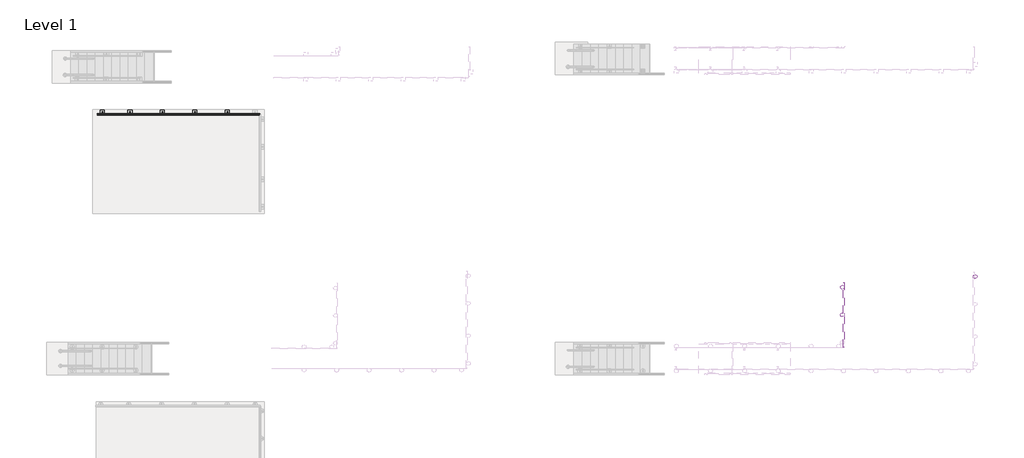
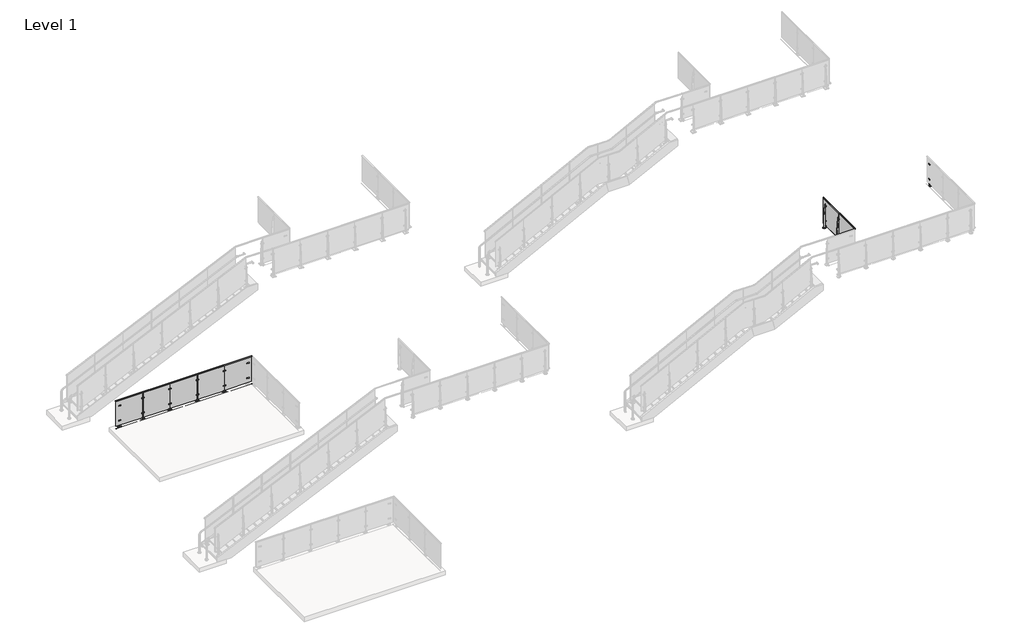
# One storey, part 9 of 37: 3 proxies, 2 railings.
"""IFC4 building model written with IfcOpenShell, lengths in millimetres."""

from ifc_helpers import new_model, si_unit, point, frame, frame_2d, origin, origin_with_axes, place, context, project, spatial, polyline, circle_curve, trimmed, segment, composite_curve, outline, extrude, transform, mapped, element, save
from components import baluster_end_post_viva_solo_top_mount_e11f810b, baluster_end_post_viva_solo_top_mount_e69dec62, baluster_end_post_viva_solo_top_mount_7846b30d

model = new_model("IFC4")

# Units and contexts
model_context = context("Model", 3, world=origin())
ifc_project = project(units=[si_unit("LENGTHUNIT", "METRE", prefix="MILLI")], contexts=[model_context])

# Site, building, storey
site = spatial("IfcSite", under=ifc_project)
building = spatial("IfcBuilding", under=site)
storey = spatial("IfcBuildingStorey", under=building, Name="Level 1", Elevation=0.0)

# Proxies
placement = place(None, origin())
baluster_end_post_viva_solo_top_mount_shape = baluster_end_post_viva_solo_top_mount_e11f810b(model_context)
element("IfcBuildingElementProxy", 1, Name="Baluster-End-Post-VIVA-SOLO-Top Mount : ANCHORED TO CONCRETE_TOP MOUNT FOLD_STRAIGHT", ObjectType="Baluster-End-Post-VIVA-SOLO-Top Mount : ANCHORED TO CONCRETE_TOP MOUNT FOLD_STRAIGHT", at=placement, inside=storey, context=model_context, shape_type="MappedRepresentation", body=[
    mapped(baluster_end_post_viva_solo_top_mount_shape, transform((-12886.551581, 2381.4329135, -0.508), x_axis=(-1.0, 0.0, 0.0), y_axis=(0.0, -1.0, 0.0), z_axis=(0.0, 0.0, 1.0))),
])
baluster_end_post_viva_solo_top_mount_2_shape = baluster_end_post_viva_solo_top_mount_e69dec62(model_context)
element("IfcBuildingElementProxy", 2, Name="Baluster-End-Post-VIVA-SOLO-Top Mount : CORED INTO CONCRETE_TOP MOUNT FOLD_STRAIGHT", ObjectType="Baluster-End-Post-VIVA-SOLO-Top Mount : CORED INTO CONCRETE_TOP MOUNT FOLD_STRAIGHT", at=placement, inside=storey, context=model_context, shape_type="MappedRepresentation", body=[
    mapped(baluster_end_post_viva_solo_top_mount_2_shape, transform((14494.1021052, -2525.1528686, 3047.492), x_axis=(0.0, 1.0, 0.0), y_axis=(-1.0, 0.0, 0.0), z_axis=(0.0, 0.0, 1.0))),
])
baluster_end_post_viva_solo_top_mount_3_shape = baluster_end_post_viva_solo_top_mount_7846b30d(model_context)
element("IfcBuildingElementProxy", 3, Name="Baluster-End-Post-VIVA-SOLO-Top Mount : CORED INTO CONCRETE_TOP MOUNT FOLD_STRAIGHT", ObjectType="Baluster-End-Post-VIVA-SOLO-Top Mount : CORED INTO CONCRETE_TOP MOUNT FOLD_STRAIGHT", at=placement, inside=storey, context=model_context, shape_type="MappedRepresentation", body=[
    mapped(baluster_end_post_viva_solo_top_mount_3_shape, transform((10503.9347137, -2855.3528686, 3047.492), x_axis=(0.0, -1.0, 0.0), y_axis=(1.0, 0.0, 0.0), z_axis=(0.0, 0.0, 1.0))),
])

# Railings
element("IfcRailing", 4, ObjectType="VIVA-SOLO-Glass-Core Mount-Straight", at=placement, inside=storey, context=model_context, shape_type="SweptSolid", body=[
    extrude(outline(composite_curve([segment(trimmed(circle_curve(frame_2d((3047.746, 10503.9347137)), 0.254), [point((3047.746, 10504.1887137))], [point((3047.746, 10503.6807137))], False, "CARTESIAN"), True, "CONTINUOUS"), segment(trimmed(circle_curve(frame_2d((3047.746, 10503.9347137)), 0.254), [point((3047.746, 10503.6807137))], [point((3047.746, 10504.1887137))], False, "CARTESIAN"), True, "CONTINUOUS")], self_intersect=False)), frame((0.0, -4887.3528686, 0.0), z_axis=(0.0, 1.0, 0.0), x_axis=(0.0, 0.0, 1.0)), (0.0, 0.0, 1.0), 2032.0),
    extrude(outline(composite_curve([segment(trimmed(circle_curve(frame_2d((3047.746, 10503.9347137)), 0.254), [point((3047.746, 10504.1887137))], [point((3047.746, 10503.6807137))], False, "CARTESIAN"), True, "CONTINUOUS"), segment(trimmed(circle_curve(frame_2d((3047.746, 10503.9347137)), 0.254), [point((3047.746, 10503.6807137))], [point((3047.746, 10504.1887137))], False, "CARTESIAN"), True, "CONTINUOUS")], self_intersect=False)), frame((0.0, -4887.3528686, 0.0), z_axis=(0.0, 1.0, 0.0), x_axis=(0.0, 0.0, 1.0)), (0.0, 0.0, 1.0), 2032.0),
    extrude(outline(polyline([(4127.5, 10478.8522137), (4127.5, 10456.6272137), (4102.1, 10456.6272137), (4102.1, 10461.3897137), (4122.7375, 10461.3897137), (4122.7375, 10474.0897137), (4102.1, 10474.0897137), (4102.1, 10478.8522137), (4127.5, 10478.8522137)])), frame((0.0, -4887.3528686, 0.0), z_axis=(0.0, 1.0, 0.0), x_axis=(0.0, 0.0, 1.0)), (0.0, 0.0, 1.0), 2032.0),
    extrude(outline(polyline([(10474.0897137, -3858.269822), (10461.3897137, -3858.269822), (10461.3897137, -2867.669822), (10474.0897137, -2867.669822), (10474.0897137, -3858.269822)])), frame((0.0, 0.0, 3124.2), z_axis=(0.0, 0.0, 1.0), x_axis=(1.0, 0.0, 0.0)), (0.0, 0.0, 1.0), 998.474),
    extrude(outline(polyline([(3962.4, 10451.8647137), (3962.4, 10426.4647137), (3429.0, 10388.3647137), (3048.0, 10388.3647137), (3048.0, 10451.8647137), (3962.4, 10451.8647137)])), frame((0.0, -3877.7028686, 0.0), z_axis=(0.0, 1.0, 0.0), x_axis=(0.0, 0.0, 1.0)), (0.0, 0.0, 1.0), 12.7),
    extrude(outline(composite_curve([segment(trimmed(circle_curve(frame_2d((10420.1147137, -3871.3528686)), 63.5), [point((10356.6147137, -3871.3528686))], [point((10483.6147137, -3871.3528686))], False, "CARTESIAN"), True, "CONTINUOUS"), segment(trimmed(circle_curve(frame_2d((10420.1147137, -3871.3528686)), 63.5), [point((10483.6147137, -3871.3528686))], [point((10356.6147137, -3871.3528686))], False, "CARTESIAN"), True, "CONTINUOUS")], self_intersect=False)), frame((0.0, 0.0, 3048.0), z_axis=(0.0, 0.0, 1.0), x_axis=(1.0, 0.0, 0.0)), (0.0, 0.0, 1.0), 3.175),
    extrude(outline(polyline([(10461.3897137, -3915.8028686), (10451.8647137, -3915.8028686), (10451.8647137, -3826.9028686), (10461.3897137, -3826.9028686), (10461.3897137, -3915.8028686)])), frame((0.0, 0.0, 3299.9910694), z_axis=(0.0, 0.0, 1.0), x_axis=(1.0, 0.0, 0.0)), (0.0, 0.0, 1.0), 31.75),
    extrude(outline(polyline([(10461.3897137, -3915.8028686), (10451.8647137, -3915.8028686), (10451.8647137, -3826.9028686), (10461.3897137, -3826.9028686), (10461.3897137, -3915.8028686)])), frame((0.0, 0.0, 3886.2992187), z_axis=(0.0, 0.0, 1.0), x_axis=(1.0, 0.0, 0.0)), (0.0, 0.0, 1.0), 31.75),
    extrude(outline(polyline([(10483.6147137, -3915.8028686), (10474.0897137, -3915.8028686), (10474.0897137, -3826.9028686), (10483.6147137, -3826.9028686), (10483.6147137, -3915.8028686)])), frame((0.0, 0.0, 3299.9910694), z_axis=(0.0, 0.0, 1.0), x_axis=(1.0, 0.0, 0.0)), (0.0, 0.0, 1.0), 31.75),
    extrude(outline(polyline([(10483.6147137, -3915.8028686), (10474.0897137, -3915.8028686), (10474.0897137, -3826.9028686), (10483.6147137, -3826.9028686), (10483.6147137, -3915.8028686)])), frame((0.0, 0.0, 3886.2992187), z_axis=(0.0, 0.0, 1.0), x_axis=(1.0, 0.0, 0.0)), (0.0, 0.0, 1.0), 31.75),
    extrude(outline(polyline([(-3826.9028686, 3124.2), (-3826.9028686, 3117.85), (-3871.3528686, 3095.9353513), (-3915.8028686, 3117.85), (-3915.8028686, 3124.2), (-3826.9028686, 3124.2)])), frame((10461.3897137, 0.0, 0.0), z_axis=(1.0, 0.0, 0.0), x_axis=(0.0, 1.0, 0.0)), (0.0, 0.0, 1.0), 12.7),
    extrude(outline(composite_curve([segment(trimmed(circle_curve(frame_2d((-3871.3528686, 3315.8660694)), 6.35), [point((-3865.0028686, 3315.8660694))], [point((-3877.7028686, 3315.8660694))], False, "CARTESIAN"), True, "CONTINUOUS"), segment(trimmed(circle_curve(frame_2d((-3871.3528686, 3315.8660694)), 6.35), [point((-3877.7028686, 3315.8660694))], [point((-3865.0028686, 3315.8660694))], False, "CARTESIAN"), True, "CONTINUOUS")], self_intersect=False)), frame((10461.3897137, 0.0, 0.0), z_axis=(1.0, 0.0, 0.0), x_axis=(0.0, 1.0, 0.0)), (0.0, 0.0, 1.0), 12.7),
    extrude(outline(composite_curve([segment(trimmed(circle_curve(frame_2d((-3871.3528686, 3902.1742187)), 6.35), [point((-3865.0028686, 3902.1742187))], [point((-3877.7028686, 3902.1742187))], False, "CARTESIAN"), True, "CONTINUOUS"), segment(trimmed(circle_curve(frame_2d((-3871.3528686, 3902.1742187)), 6.35), [point((-3877.7028686, 3902.1742187))], [point((-3865.0028686, 3902.1742187))], False, "CARTESIAN"), True, "CONTINUOUS")], self_intersect=False)), frame((10461.3897137, 0.0, 0.0), z_axis=(1.0, 0.0, 0.0), x_axis=(0.0, 1.0, 0.0)), (0.0, 0.0, 1.0), 12.7),
    extrude(outline(composite_curve([segment(trimmed(circle_curve(frame_2d((-3871.3528686, 3108.325)), 11.1125), [point((-3860.2403686, 3108.325))], [point((-3882.4653686, 3108.325))], False, "CARTESIAN"), True, "CONTINUOUS"), segment(trimmed(circle_curve(frame_2d((-3871.3528686, 3108.325)), 11.1125), [point((-3882.4653686, 3108.325))], [point((-3860.2403686, 3108.325))], False, "CARTESIAN"), True, "CONTINUOUS")], self_intersect=False)), frame((10451.8647137, 0.0, 0.0), z_axis=(1.0, 0.0, 0.0), x_axis=(0.0, 1.0, 0.0)), (0.0, 0.0, 1.0), 25.4),
    extrude(outline(polyline([(10474.0897137, -4874.269822), (10461.3897137, -4874.269822), (10461.3897137, -3883.669822), (10474.0897137, -3883.669822), (10474.0897137, -4874.269822)])), frame((0.0, 0.0, 3124.2), z_axis=(0.0, 0.0, 1.0), x_axis=(1.0, 0.0, 0.0)), (0.0, 0.0, 1.0), 998.474),
])
element("IfcRailing", 5, ObjectType="VIVA-SOLO-Glass-Floor Mount-Straight", at=placement, inside=storey, context=model_context, shape_type="SweptSolid", body=[
    extrude(outline(composite_curve([segment(trimmed(circle_curve(frame_2d((2381.4329135, -0.254)), 0.254), [point((2381.1789135, -0.254))], [point((2381.6869135, -0.254))], False, "CARTESIAN"), True, "CONTINUOUS"), segment(trimmed(circle_curve(frame_2d((2381.4329135, -0.254)), 0.254), [point((2381.6869135, -0.254))], [point((2381.1789135, -0.254))], False, "CARTESIAN"), True, "CONTINUOUS")], self_intersect=False)), frame((-12886.551581, 0.0, 0.0), z_axis=(1.0, 0.0, 0.0), x_axis=(0.0, 1.0, 0.0)), (0.0, 0.0, 1.0), 5080.0),
    extrude(outline(composite_curve([segment(trimmed(circle_curve(frame_2d((2381.4329135, -0.254)), 0.254), [point((2381.1789135, -0.254))], [point((2381.6869135, -0.254))], False, "CARTESIAN"), True, "CONTINUOUS"), segment(trimmed(circle_curve(frame_2d((2381.4329135, -0.254)), 0.254), [point((2381.6869135, -0.254))], [point((2381.1789135, -0.254))], False, "CARTESIAN"), True, "CONTINUOUS")], self_intersect=False)), frame((-12886.551581, 0.0, 0.0), z_axis=(1.0, 0.0, 0.0), x_axis=(0.0, 1.0, 0.0)), (0.0, 0.0, 1.0), 5080.0),
    extrude(outline(polyline([(2406.5154135, 1079.5), (2428.7404135, 1079.5), (2428.7404135, 1054.1), (2423.9779135, 1054.1), (2423.9779135, 1074.7375), (2411.2779135, 1074.7375), (2411.2779135, 1054.1), (2406.5154135, 1054.1), (2406.5154135, 1079.5)])), frame((-12886.551581, 0.0, 0.0), z_axis=(1.0, 0.0, 0.0), x_axis=(0.0, 1.0, 0.0)), (0.0, 0.0, 1.0), 5080.0),
    extrude(outline(polyline([(-8809.4685344, 2411.2779135), (-8809.4685344, 2423.9779135), (-7818.8685344, 2423.9779135), (-7818.8685344, 2411.2779135), (-8809.4685344, 2411.2779135)])), frame((0.0, 0.0, 76.2), z_axis=(0.0, 0.0, 1.0), x_axis=(1.0, 0.0, 0.0)), (0.0, 0.0, 1.0), 998.474),
    extrude(outline(polyline([(2433.5029135, 914.4), (2458.9029135, 914.4), (2497.0029135, 381.0), (2497.0029135, 0.0), (2433.5029135, 0.0), (2433.5029135, 914.4)])), frame((-8828.901581, 0.0, 0.0), z_axis=(1.0, 0.0, 0.0), x_axis=(0.0, 1.0, 0.0)), (0.0, 0.0, 1.0), 12.7),
    extrude(outline(polyline([(-8756.670331, 2399.3716635), (-8888.432831, 2399.3716635), (-8888.432831, 2531.1341635), (-8756.670331, 2531.1341635), (-8756.670331, 2399.3716635)])), origin_with_axes(), (0.0, 0.0, 1.0), 25.4),
    extrude(outline(polyline([(-8867.001581, 2423.9779135), (-8867.001581, 2433.5029135), (-8778.101581, 2433.5029135), (-8778.101581, 2423.9779135), (-8867.001581, 2423.9779135)])), frame((0.0, 0.0, 251.9910694), z_axis=(0.0, 0.0, 1.0), x_axis=(1.0, 0.0, 0.0)), (0.0, 0.0, 1.0), 31.75),
    extrude(outline(polyline([(-8867.001581, 2423.9779135), (-8867.001581, 2433.5029135), (-8778.101581, 2433.5029135), (-8778.101581, 2423.9779135), (-8867.001581, 2423.9779135)])), frame((0.0, 0.0, 838.2992187), z_axis=(0.0, 0.0, 1.0), x_axis=(1.0, 0.0, 0.0)), (0.0, 0.0, 1.0), 31.75),
    extrude(outline(polyline([(-8867.001581, 2401.7529135), (-8867.001581, 2411.2779135), (-8778.101581, 2411.2779135), (-8778.101581, 2401.7529135), (-8867.001581, 2401.7529135)])), frame((0.0, 0.0, 251.9910694), z_axis=(0.0, 0.0, 1.0), x_axis=(1.0, 0.0, 0.0)), (0.0, 0.0, 1.0), 31.75),
    extrude(outline(polyline([(-8867.001581, 2401.7529135), (-8867.001581, 2411.2779135), (-8778.101581, 2411.2779135), (-8778.101581, 2401.7529135), (-8867.001581, 2401.7529135)])), frame((0.0, 0.0, 838.2992187), z_axis=(0.0, 0.0, 1.0), x_axis=(1.0, 0.0, 0.0)), (0.0, 0.0, 1.0), 31.75),
    extrude(outline(polyline([(76.2, -8778.101581), (76.2, -8867.001581), (69.85, -8867.001581), (47.9353513, -8822.551581), (69.85, -8778.101581), (76.2, -8778.101581)])), frame((0.0, 2411.2779135, 0.0), z_axis=(0.0, 1.0, 0.0), x_axis=(0.0, 0.0, 1.0)), (0.0, 0.0, 1.0), 12.7),
    extrude(outline(composite_curve([segment(trimmed(circle_curve(frame_2d((267.8660694, -8822.551581)), 6.35), [point((267.8660694, -8816.201581))], [point((267.8660694, -8828.901581))], False, "CARTESIAN"), True, "CONTINUOUS"), segment(trimmed(circle_curve(frame_2d((267.8660694, -8822.551581)), 6.35), [point((267.8660694, -8828.901581))], [point((267.8660694, -8816.201581))], False, "CARTESIAN"), True, "CONTINUOUS")], self_intersect=False)), frame((0.0, 2411.2779135, 0.0), z_axis=(0.0, 1.0, 0.0), x_axis=(0.0, 0.0, 1.0)), (0.0, 0.0, 1.0), 12.7),
    extrude(outline(composite_curve([segment(trimmed(circle_curve(frame_2d((854.1742187, -8822.551581)), 6.35), [point((854.1742187, -8816.201581))], [point((854.1742187, -8828.901581))], False, "CARTESIAN"), True, "CONTINUOUS"), segment(trimmed(circle_curve(frame_2d((854.1742187, -8822.551581)), 6.35), [point((854.1742187, -8828.901581))], [point((854.1742187, -8816.201581))], False, "CARTESIAN"), True, "CONTINUOUS")], self_intersect=False)), frame((0.0, 2411.2779135, 0.0), z_axis=(0.0, 1.0, 0.0), x_axis=(0.0, 0.0, 1.0)), (0.0, 0.0, 1.0), 12.7),
    extrude(outline(composite_curve([segment(trimmed(circle_curve(frame_2d((60.325, -8822.551581)), 11.1125), [point((60.325, -8811.439081))], [point((60.325, -8833.664081))], False, "CARTESIAN"), True, "CONTINUOUS"), segment(trimmed(circle_curve(frame_2d((60.325, -8822.551581)), 11.1125), [point((60.325, -8833.664081))], [point((60.325, -8811.439081))], False, "CARTESIAN"), True, "CONTINUOUS")], self_intersect=False)), frame((0.0, 2408.1029135, 0.0), z_axis=(0.0, 1.0, 0.0), x_axis=(0.0, 0.0, 1.0)), (0.0, 0.0, 1.0), 25.4),
    extrude(outline(polyline([(-9825.4685344, 2411.2779135), (-9825.4685344, 2423.9779135), (-8834.8685344, 2423.9779135), (-8834.8685344, 2411.2779135), (-9825.4685344, 2411.2779135)])), frame((0.0, 0.0, 76.2), z_axis=(0.0, 0.0, 1.0), x_axis=(1.0, 0.0, 0.0)), (0.0, 0.0, 1.0), 998.474),
    extrude(outline(polyline([(2433.5029135, 914.4), (2458.9029135, 914.4), (2497.0029135, 381.0), (2497.0029135, 0.0), (2433.5029135, 0.0), (2433.5029135, 914.4)])), frame((-9844.901581, 0.0, 0.0), z_axis=(1.0, 0.0, 0.0), x_axis=(0.0, 1.0, 0.0)), (0.0, 0.0, 1.0), 12.7),
    extrude(outline(polyline([(-9772.670331, 2399.3716635), (-9904.432831, 2399.3716635), (-9904.432831, 2531.1341635), (-9772.670331, 2531.1341635), (-9772.670331, 2399.3716635)])), origin_with_axes(), (0.0, 0.0, 1.0), 25.4),
    extrude(outline(polyline([(-9883.001581, 2423.9779135), (-9883.001581, 2433.5029135), (-9794.101581, 2433.5029135), (-9794.101581, 2423.9779135), (-9883.001581, 2423.9779135)])), frame((0.0, 0.0, 251.9910694), z_axis=(0.0, 0.0, 1.0), x_axis=(1.0, 0.0, 0.0)), (0.0, 0.0, 1.0), 31.75),
    extrude(outline(polyline([(-9883.001581, 2423.9779135), (-9883.001581, 2433.5029135), (-9794.101581, 2433.5029135), (-9794.101581, 2423.9779135), (-9883.001581, 2423.9779135)])), frame((0.0, 0.0, 838.2992187), z_axis=(0.0, 0.0, 1.0), x_axis=(1.0, 0.0, 0.0)), (0.0, 0.0, 1.0), 31.75),
    extrude(outline(polyline([(-9883.001581, 2401.7529135), (-9883.001581, 2411.2779135), (-9794.101581, 2411.2779135), (-9794.101581, 2401.7529135), (-9883.001581, 2401.7529135)])), frame((0.0, 0.0, 251.9910694), z_axis=(0.0, 0.0, 1.0), x_axis=(1.0, 0.0, 0.0)), (0.0, 0.0, 1.0), 31.75),
    extrude(outline(polyline([(-9883.001581, 2401.7529135), (-9883.001581, 2411.2779135), (-9794.101581, 2411.2779135), (-9794.101581, 2401.7529135), (-9883.001581, 2401.7529135)])), frame((0.0, 0.0, 838.2992187), z_axis=(0.0, 0.0, 1.0), x_axis=(1.0, 0.0, 0.0)), (0.0, 0.0, 1.0), 31.75),
    extrude(outline(polyline([(76.2, -9794.101581), (76.2, -9883.001581), (69.85, -9883.001581), (47.9353513, -9838.551581), (69.85, -9794.101581), (76.2, -9794.101581)])), frame((0.0, 2411.2779135, 0.0), z_axis=(0.0, 1.0, 0.0), x_axis=(0.0, 0.0, 1.0)), (0.0, 0.0, 1.0), 12.7),
    extrude(outline(composite_curve([segment(trimmed(circle_curve(frame_2d((267.8660694, -9838.551581)), 6.35), [point((267.8660694, -9832.201581))], [point((267.8660694, -9844.901581))], False, "CARTESIAN"), True, "CONTINUOUS"), segment(trimmed(circle_curve(frame_2d((267.8660694, -9838.551581)), 6.35), [point((267.8660694, -9844.901581))], [point((267.8660694, -9832.201581))], False, "CARTESIAN"), True, "CONTINUOUS")], self_intersect=False)), frame((0.0, 2411.2779135, 0.0), z_axis=(0.0, 1.0, 0.0), x_axis=(0.0, 0.0, 1.0)), (0.0, 0.0, 1.0), 12.7),
    extrude(outline(composite_curve([segment(trimmed(circle_curve(frame_2d((854.1742187, -9838.551581)), 6.35), [point((854.1742187, -9832.201581))], [point((854.1742187, -9844.901581))], False, "CARTESIAN"), True, "CONTINUOUS"), segment(trimmed(circle_curve(frame_2d((854.1742187, -9838.551581)), 6.35), [point((854.1742187, -9844.901581))], [point((854.1742187, -9832.201581))], False, "CARTESIAN"), True, "CONTINUOUS")], self_intersect=False)), frame((0.0, 2411.2779135, 0.0), z_axis=(0.0, 1.0, 0.0), x_axis=(0.0, 0.0, 1.0)), (0.0, 0.0, 1.0), 12.7),
    extrude(outline(composite_curve([segment(trimmed(circle_curve(frame_2d((60.325, -9838.551581)), 11.1125), [point((60.325, -9827.439081))], [point((60.325, -9849.664081))], False, "CARTESIAN"), True, "CONTINUOUS"), segment(trimmed(circle_curve(frame_2d((60.325, -9838.551581)), 11.1125), [point((60.325, -9849.664081))], [point((60.325, -9827.439081))], False, "CARTESIAN"), True, "CONTINUOUS")], self_intersect=False)), frame((0.0, 2408.1029135, 0.0), z_axis=(0.0, 1.0, 0.0), x_axis=(0.0, 0.0, 1.0)), (0.0, 0.0, 1.0), 25.4),
    extrude(outline(polyline([(-10841.4685344, 2411.2779135), (-10841.4685344, 2423.9779135), (-9850.8685344, 2423.9779135), (-9850.8685344, 2411.2779135), (-10841.4685344, 2411.2779135)])), frame((0.0, 0.0, 76.2), z_axis=(0.0, 0.0, 1.0), x_axis=(1.0, 0.0, 0.0)), (0.0, 0.0, 1.0), 998.474),
    extrude(outline(polyline([(2433.5029135, 914.4), (2458.9029135, 914.4), (2497.0029135, 381.0), (2497.0029135, 0.0), (2433.5029135, 0.0), (2433.5029135, 914.4)])), frame((-10860.901581, 0.0, 0.0), z_axis=(1.0, 0.0, 0.0), x_axis=(0.0, 1.0, 0.0)), (0.0, 0.0, 1.0), 12.7),
    extrude(outline(polyline([(-10788.670331, 2399.3716635), (-10920.432831, 2399.3716635), (-10920.432831, 2531.1341635), (-10788.670331, 2531.1341635), (-10788.670331, 2399.3716635)])), origin_with_axes(), (0.0, 0.0, 1.0), 25.4),
    extrude(outline(polyline([(-10899.001581, 2423.9779135), (-10899.001581, 2433.5029135), (-10810.101581, 2433.5029135), (-10810.101581, 2423.9779135), (-10899.001581, 2423.9779135)])), frame((0.0, 0.0, 251.9910694), z_axis=(0.0, 0.0, 1.0), x_axis=(1.0, 0.0, 0.0)), (0.0, 0.0, 1.0), 31.75),
    extrude(outline(polyline([(-10899.001581, 2423.9779135), (-10899.001581, 2433.5029135), (-10810.101581, 2433.5029135), (-10810.101581, 2423.9779135), (-10899.001581, 2423.9779135)])), frame((0.0, 0.0, 838.2992187), z_axis=(0.0, 0.0, 1.0), x_axis=(1.0, 0.0, 0.0)), (0.0, 0.0, 1.0), 31.75),
    extrude(outline(polyline([(-10899.001581, 2401.7529135), (-10899.001581, 2411.2779135), (-10810.101581, 2411.2779135), (-10810.101581, 2401.7529135), (-10899.001581, 2401.7529135)])), frame((0.0, 0.0, 251.9910694), z_axis=(0.0, 0.0, 1.0), x_axis=(1.0, 0.0, 0.0)), (0.0, 0.0, 1.0), 31.75),
    extrude(outline(polyline([(-10899.001581, 2401.7529135), (-10899.001581, 2411.2779135), (-10810.101581, 2411.2779135), (-10810.101581, 2401.7529135), (-10899.001581, 2401.7529135)])), frame((0.0, 0.0, 838.2992187), z_axis=(0.0, 0.0, 1.0), x_axis=(1.0, 0.0, 0.0)), (0.0, 0.0, 1.0), 31.75),
    extrude(outline(polyline([(76.2, -10810.101581), (76.2, -10899.001581), (69.85, -10899.001581), (47.9353513, -10854.551581), (69.85, -10810.101581), (76.2, -10810.101581)])), frame((0.0, 2411.2779135, 0.0), z_axis=(0.0, 1.0, 0.0), x_axis=(0.0, 0.0, 1.0)), (0.0, 0.0, 1.0), 12.7),
    extrude(outline(composite_curve([segment(trimmed(circle_curve(frame_2d((267.8660694, -10854.551581)), 6.35), [point((267.8660694, -10848.201581))], [point((267.8660694, -10860.901581))], False, "CARTESIAN"), True, "CONTINUOUS"), segment(trimmed(circle_curve(frame_2d((267.8660694, -10854.551581)), 6.35), [point((267.8660694, -10860.901581))], [point((267.8660694, -10848.201581))], False, "CARTESIAN"), True, "CONTINUOUS")], self_intersect=False)), frame((0.0, 2411.2779135, 0.0), z_axis=(0.0, 1.0, 0.0), x_axis=(0.0, 0.0, 1.0)), (0.0, 0.0, 1.0), 12.7),
    extrude(outline(composite_curve([segment(trimmed(circle_curve(frame_2d((854.1742187, -10854.551581)), 6.35), [point((854.1742187, -10848.201581))], [point((854.1742187, -10860.901581))], False, "CARTESIAN"), True, "CONTINUOUS"), segment(trimmed(circle_curve(frame_2d((854.1742187, -10854.551581)), 6.35), [point((854.1742187, -10860.901581))], [point((854.1742187, -10848.201581))], False, "CARTESIAN"), True, "CONTINUOUS")], self_intersect=False)), frame((0.0, 2411.2779135, 0.0), z_axis=(0.0, 1.0, 0.0), x_axis=(0.0, 0.0, 1.0)), (0.0, 0.0, 1.0), 12.7),
    extrude(outline(composite_curve([segment(trimmed(circle_curve(frame_2d((60.325, -10854.551581)), 11.1125), [point((60.325, -10843.439081))], [point((60.325, -10865.664081))], False, "CARTESIAN"), True, "CONTINUOUS"), segment(trimmed(circle_curve(frame_2d((60.325, -10854.551581)), 11.1125), [point((60.325, -10865.664081))], [point((60.325, -10843.439081))], False, "CARTESIAN"), True, "CONTINUOUS")], self_intersect=False)), frame((0.0, 2408.1029135, 0.0), z_axis=(0.0, 1.0, 0.0), x_axis=(0.0, 0.0, 1.0)), (0.0, 0.0, 1.0), 25.4),
    extrude(outline(polyline([(-11857.4685344, 2411.2779135), (-11857.4685344, 2423.9779135), (-10866.8685344, 2423.9779135), (-10866.8685344, 2411.2779135), (-11857.4685344, 2411.2779135)])), frame((0.0, 0.0, 76.2), z_axis=(0.0, 0.0, 1.0), x_axis=(1.0, 0.0, 0.0)), (0.0, 0.0, 1.0), 998.474),
    extrude(outline(polyline([(2433.5029135, 914.4), (2458.9029135, 914.4), (2497.0029135, 381.0), (2497.0029135, 0.0), (2433.5029135, 0.0), (2433.5029135, 914.4)])), frame((-11876.901581, 0.0, 0.0), z_axis=(1.0, 0.0, 0.0), x_axis=(0.0, 1.0, 0.0)), (0.0, 0.0, 1.0), 12.7),
    extrude(outline(polyline([(-11804.670331, 2399.3716635), (-11936.432831, 2399.3716635), (-11936.432831, 2531.1341635), (-11804.670331, 2531.1341635), (-11804.670331, 2399.3716635)])), origin_with_axes(), (0.0, 0.0, 1.0), 25.4),
    extrude(outline(polyline([(-11915.001581, 2423.9779135), (-11915.001581, 2433.5029135), (-11826.101581, 2433.5029135), (-11826.101581, 2423.9779135), (-11915.001581, 2423.9779135)])), frame((0.0, 0.0, 251.9910694), z_axis=(0.0, 0.0, 1.0), x_axis=(1.0, 0.0, 0.0)), (0.0, 0.0, 1.0), 31.75),
    extrude(outline(polyline([(-11915.001581, 2423.9779135), (-11915.001581, 2433.5029135), (-11826.101581, 2433.5029135), (-11826.101581, 2423.9779135), (-11915.001581, 2423.9779135)])), frame((0.0, 0.0, 838.2992187), z_axis=(0.0, 0.0, 1.0), x_axis=(1.0, 0.0, 0.0)), (0.0, 0.0, 1.0), 31.75),
    extrude(outline(polyline([(-11915.001581, 2401.7529135), (-11915.001581, 2411.2779135), (-11826.101581, 2411.2779135), (-11826.101581, 2401.7529135), (-11915.001581, 2401.7529135)])), frame((0.0, 0.0, 251.9910694), z_axis=(0.0, 0.0, 1.0), x_axis=(1.0, 0.0, 0.0)), (0.0, 0.0, 1.0), 31.75),
    extrude(outline(polyline([(-11915.001581, 2401.7529135), (-11915.001581, 2411.2779135), (-11826.101581, 2411.2779135), (-11826.101581, 2401.7529135), (-11915.001581, 2401.7529135)])), frame((0.0, 0.0, 838.2992187), z_axis=(0.0, 0.0, 1.0), x_axis=(1.0, 0.0, 0.0)), (0.0, 0.0, 1.0), 31.75),
    extrude(outline(polyline([(76.2, -11826.101581), (76.2, -11915.001581), (69.85, -11915.001581), (47.9353513, -11870.551581), (69.85, -11826.101581), (76.2, -11826.101581)])), frame((0.0, 2411.2779135, 0.0), z_axis=(0.0, 1.0, 0.0), x_axis=(0.0, 0.0, 1.0)), (0.0, 0.0, 1.0), 12.7),
    extrude(outline(composite_curve([segment(trimmed(circle_curve(frame_2d((267.8660694, -11870.551581)), 6.35), [point((267.8660694, -11864.201581))], [point((267.8660694, -11876.901581))], False, "CARTESIAN"), True, "CONTINUOUS"), segment(trimmed(circle_curve(frame_2d((267.8660694, -11870.551581)), 6.35), [point((267.8660694, -11876.901581))], [point((267.8660694, -11864.201581))], False, "CARTESIAN"), True, "CONTINUOUS")], self_intersect=False)), frame((0.0, 2411.2779135, 0.0), z_axis=(0.0, 1.0, 0.0), x_axis=(0.0, 0.0, 1.0)), (0.0, 0.0, 1.0), 12.7),
    extrude(outline(composite_curve([segment(trimmed(circle_curve(frame_2d((854.1742187, -11870.551581)), 6.35), [point((854.1742187, -11864.201581))], [point((854.1742187, -11876.901581))], False, "CARTESIAN"), True, "CONTINUOUS"), segment(trimmed(circle_curve(frame_2d((854.1742187, -11870.551581)), 6.35), [point((854.1742187, -11876.901581))], [point((854.1742187, -11864.201581))], False, "CARTESIAN"), True, "CONTINUOUS")], self_intersect=False)), frame((0.0, 2411.2779135, 0.0), z_axis=(0.0, 1.0, 0.0), x_axis=(0.0, 0.0, 1.0)), (0.0, 0.0, 1.0), 12.7),
    extrude(outline(composite_curve([segment(trimmed(circle_curve(frame_2d((60.325, -11870.551581)), 11.1125), [point((60.325, -11859.439081))], [point((60.325, -11881.664081))], False, "CARTESIAN"), True, "CONTINUOUS"), segment(trimmed(circle_curve(frame_2d((60.325, -11870.551581)), 11.1125), [point((60.325, -11881.664081))], [point((60.325, -11859.439081))], False, "CARTESIAN"), True, "CONTINUOUS")], self_intersect=False)), frame((0.0, 2408.1029135, 0.0), z_axis=(0.0, 1.0, 0.0), x_axis=(0.0, 0.0, 1.0)), (0.0, 0.0, 1.0), 25.4),
    extrude(outline(polyline([(-12873.4685344, 2411.2779135), (-12873.4685344, 2423.9779135), (-11882.8685344, 2423.9779135), (-11882.8685344, 2411.2779135), (-12873.4685344, 2411.2779135)])), frame((0.0, 0.0, 76.2), z_axis=(0.0, 0.0, 1.0), x_axis=(1.0, 0.0, 0.0)), (0.0, 0.0, 1.0), 998.474),
])

save(model, "model.ifc")
